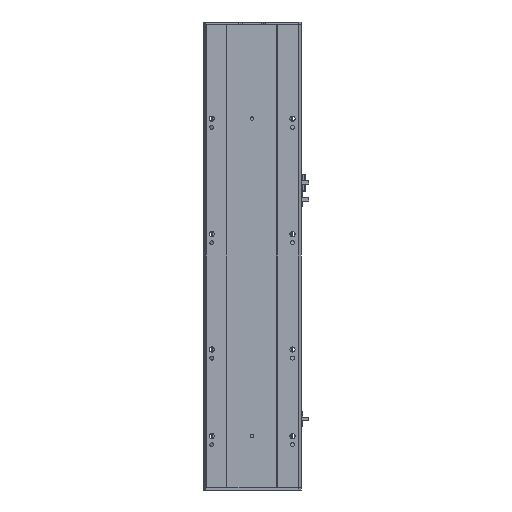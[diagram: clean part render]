
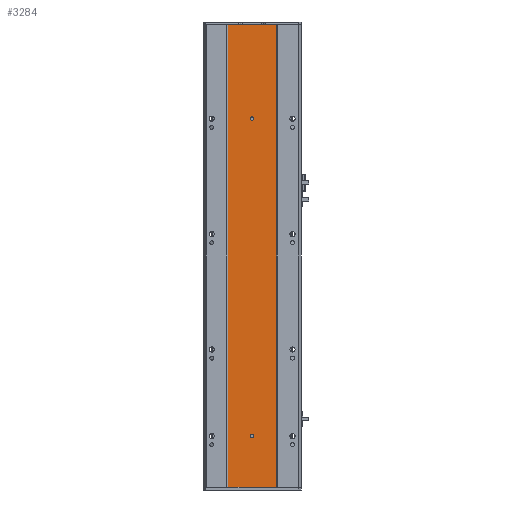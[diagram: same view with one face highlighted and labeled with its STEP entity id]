
A CAD part, front view. The second image highlights one B-rep face of the part: STEP entity #3284.
In plain terms, the highlighted planar face has unit normal (0, -1, 0).
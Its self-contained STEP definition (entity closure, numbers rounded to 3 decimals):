
#848 = EDGE_LOOP ( 'NONE', ( #17834, #23350 ) ) ;
#1219 = AXIS2_PLACEMENT_3D ( 'NONE', #16265, #4984, #18151 ) ;
#1273 = DIRECTION ( 'NONE',  ( 0., 0., 1. ) ) ;
#1642 = VECTOR ( 'NONE', #9521, 1000. ) ;
#2196 = EDGE_CURVE ( 'NONE', #8827, #21820, #19104, .T. ) ;
#2317 = CIRCLE ( 'NONE', #21181, 3. ) ;
#2572 = LINE ( 'NONE', #12212, #21390 ) ;
#2796 = VERTEX_POINT ( 'NONE', #13443 ) ;
#3284 = ADVANCED_FACE ( 'NONE', ( #4335, #23143, #9937 ), #7677, .F. ) ;
#3898 = DIRECTION ( 'NONE',  ( 0., 1., 0. ) ) ;
#4103 = VECTOR ( 'NONE', #13396, 1000. ) ;
#4335 = FACE_BOUND ( 'NONE', #6503, .T. ) ;
#4458 = ORIENTED_EDGE ( 'NONE', *, *, #18843, .T. ) ;
#4696 = DIRECTION ( 'NONE',  ( -1., 0., 0. ) ) ;
#4844 = VERTEX_POINT ( 'NONE', #9496 ) ;
#4984 = DIRECTION ( 'NONE',  ( 0., 1., 0. ) ) ;
#5028 = VERTEX_POINT ( 'NONE', #10401 ) ;
#5093 = CIRCLE ( 'NONE', #1219, 3. ) ;
#5160 = ORIENTED_EDGE ( 'NONE', *, *, #2196, .F. ) ;
#5710 = CARTESIAN_POINT ( 'NONE',  ( 42.916, 2.57, 801. ) ) ;
#5890 = CARTESIAN_POINT ( 'NONE',  ( 42.916, 2.57, 0. ) ) ;
#5921 = AXIS2_PLACEMENT_3D ( 'NONE', #17048, #3898, #9574 ) ;
#6093 = AXIS2_PLACEMENT_3D ( 'NONE', #19210, #7961, #21121 ) ;
#6503 = EDGE_LOOP ( 'NONE', ( #16780, #7041 ) ) ;
#7041 = ORIENTED_EDGE ( 'NONE', *, *, #13561, .T. ) ;
#7677 = PLANE ( 'NONE',  #5921 ) ;
#7819 = CARTESIAN_POINT ( 'NONE',  ( 85., 2.57, 638.5 ) ) ;
#7961 = DIRECTION ( 'NONE',  ( 0., 1., 0. ) ) ;
#8645 = CIRCLE ( 'NONE', #6093, 3. ) ;
#8827 = VERTEX_POINT ( 'NONE', #16102 ) ;
#9334 = CARTESIAN_POINT ( 'NONE',  ( 42.916, 2.57, 801. ) ) ;
#9496 = CARTESIAN_POINT ( 'NONE',  ( 85., 2.57, 635.5 ) ) ;
#9521 = DIRECTION ( 'NONE',  ( -1., 0., 0. ) ) ;
#9574 = DIRECTION ( 'NONE',  ( 0., 0., 1. ) ) ;
#9608 = EDGE_CURVE ( 'NONE', #4844, #20826, #2317, .T. ) ;
#9722 = DIRECTION ( 'NONE',  ( 0., 0., 1. ) ) ;
#9893 = VERTEX_POINT ( 'NONE', #18919 ) ;
#9937 = FACE_OUTER_BOUND ( 'NONE', #15258, .T. ) ;
#10216 = CARTESIAN_POINT ( 'NONE',  ( 85., 2.57, 641.5 ) ) ;
#10401 = CARTESIAN_POINT ( 'NONE',  ( 126.916, 2.57, 0. ) ) ;
#12212 = CARTESIAN_POINT ( 'NONE',  ( 42.916, 2.57, 0. ) ) ;
#12531 = DIRECTION ( 'NONE',  ( 0., 1., 0. ) ) ;
#12552 = CIRCLE ( 'NONE', #20424, 3. ) ;
#13396 = DIRECTION ( 'NONE',  ( 0., 0., 1. ) ) ;
#13443 = CARTESIAN_POINT ( 'NONE',  ( 126.916, 2.57, 801. ) ) ;
#13507 = ORIENTED_EDGE ( 'NONE', *, *, #15624, .T. ) ;
#13561 = EDGE_CURVE ( 'NONE', #9893, #20006, #5093, .T. ) ;
#13602 = DIRECTION ( 'NONE',  ( 0., 0., 1. ) ) ;
#13911 = EDGE_CURVE ( 'NONE', #20006, #9893, #8645, .T. ) ;
#15258 = EDGE_LOOP ( 'NONE', ( #13507, #5160, #21532, #4458 ) ) ;
#15335 = LINE ( 'NONE', #22958, #19754 ) ;
#15624 = EDGE_CURVE ( 'NONE', #2796, #21820, #21644, .T. ) ;
#16102 = CARTESIAN_POINT ( 'NONE',  ( 42.916, 2.57, 0. ) ) ;
#16265 = CARTESIAN_POINT ( 'NONE',  ( 85., 2.57, 88.5 ) ) ;
#16780 = ORIENTED_EDGE ( 'NONE', *, *, #13911, .T. ) ;
#17048 = CARTESIAN_POINT ( 'NONE',  ( 42.916, 2.57, 0. ) ) ;
#17834 = ORIENTED_EDGE ( 'NONE', *, *, #9608, .T. ) ;
#18151 = DIRECTION ( 'NONE',  ( 0., 0., 1. ) ) ;
#18843 = EDGE_CURVE ( 'NONE', #5028, #2796, #15335, .T. ) ;
#18919 = CARTESIAN_POINT ( 'NONE',  ( 85., 2.57, 91.5 ) ) ;
#19104 = LINE ( 'NONE', #5890, #4103 ) ;
#19210 = CARTESIAN_POINT ( 'NONE',  ( 85., 2.57, 88.5 ) ) ;
#19754 = VECTOR ( 'NONE', #13602, 1000. ) ;
#20006 = VERTEX_POINT ( 'NONE', #22568 ) ;
#20424 = AXIS2_PLACEMENT_3D ( 'NONE', #7819, #20986, #9722 ) ;
#20826 = VERTEX_POINT ( 'NONE', #10216 ) ;
#20986 = DIRECTION ( 'NONE',  ( 0., 1., 0. ) ) ;
#21121 = DIRECTION ( 'NONE',  ( 0., 0., 1. ) ) ;
#21181 = AXIS2_PLACEMENT_3D ( 'NONE', #23776, #12531, #1273 ) ;
#21390 = VECTOR ( 'NONE', #4696, 1000. ) ;
#21532 = ORIENTED_EDGE ( 'NONE', *, *, #22111, .F. ) ;
#21644 = LINE ( 'NONE', #5710, #1642 ) ;
#21820 = VERTEX_POINT ( 'NONE', #9334 ) ;
#22111 = EDGE_CURVE ( 'NONE', #5028, #8827, #2572, .T. ) ;
#22541 = EDGE_CURVE ( 'NONE', #20826, #4844, #12552, .T. ) ;
#22568 = CARTESIAN_POINT ( 'NONE',  ( 85., 2.57, 85.5 ) ) ;
#22958 = CARTESIAN_POINT ( 'NONE',  ( 126.916, 2.57, 0. ) ) ;
#23143 = FACE_BOUND ( 'NONE', #848, .T. ) ;
#23350 = ORIENTED_EDGE ( 'NONE', *, *, #22541, .T. ) ;
#23776 = CARTESIAN_POINT ( 'NONE',  ( 85., 2.57, 638.5 ) ) ;
